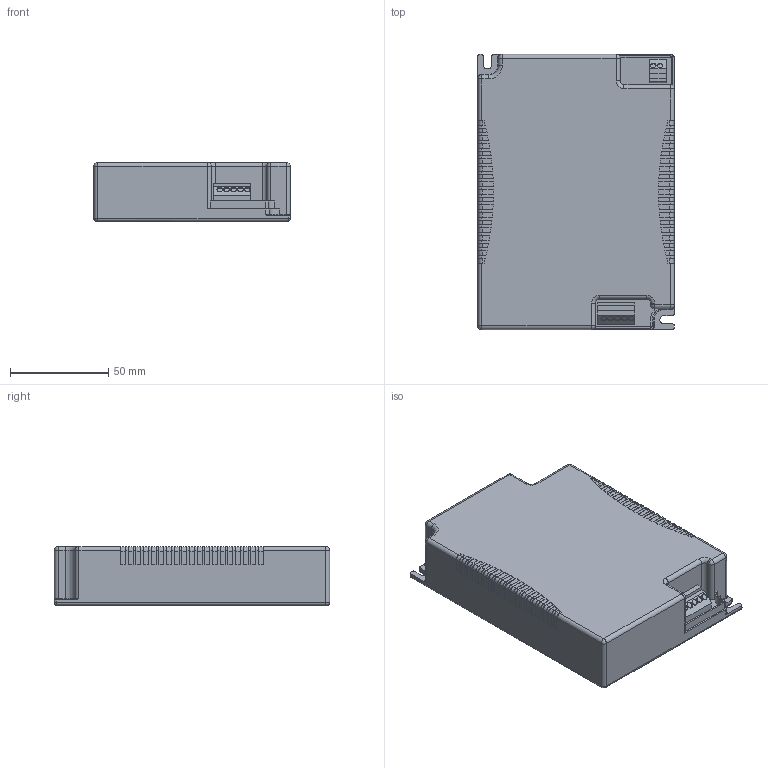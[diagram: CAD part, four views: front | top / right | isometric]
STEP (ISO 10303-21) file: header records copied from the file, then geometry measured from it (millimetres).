
FILE_DESCRIPTION((''),'2;1');
FILE_NAME('15010375Z_DATEMEC_EXE_ZC7_5POL','2016-08-25T',('juergen.hrach'),(''),'PRO/ENGINEER BY PARAMETRIC TECHNOLOGY CORPORATION, 2015200','PRO/ENGINEER BY PARAMETRIC TECHNOLOGY CORPORATION, 2015200','');
FILE_SCHEMA(('AUTOMOTIVE_DESIGN { 1 0 10303 214 1 1 1 1 }'));
Length unit declared in the file: millimetre
Products named in the file (1): 15010375Z_DATEMEC_EXE_ZC7_5POL
Bounding box: 100 x 140 x 30 mm (x, y, z)
Volume: 395882.9 mm3; surface area: 43749.3 mm2
Topology: 1 solids, 1 shells, 471 faces, 1316 edges, 856 vertices
Faces by surface type: plane 258, cylinder 183, torus 14, bspline 8, sphere 8
Entity records: 20536 total; most frequent: CARTESIAN_POINT 2970, ORIENTED_EDGE 2632, DIRECTION 2613, PRESENTATION_STYLE_ASSIGNMENT 1413, STYLED_ITEM 1317, CURVE_STYLE 1316, EDGE_CURVE 1316, VECTOR 917
